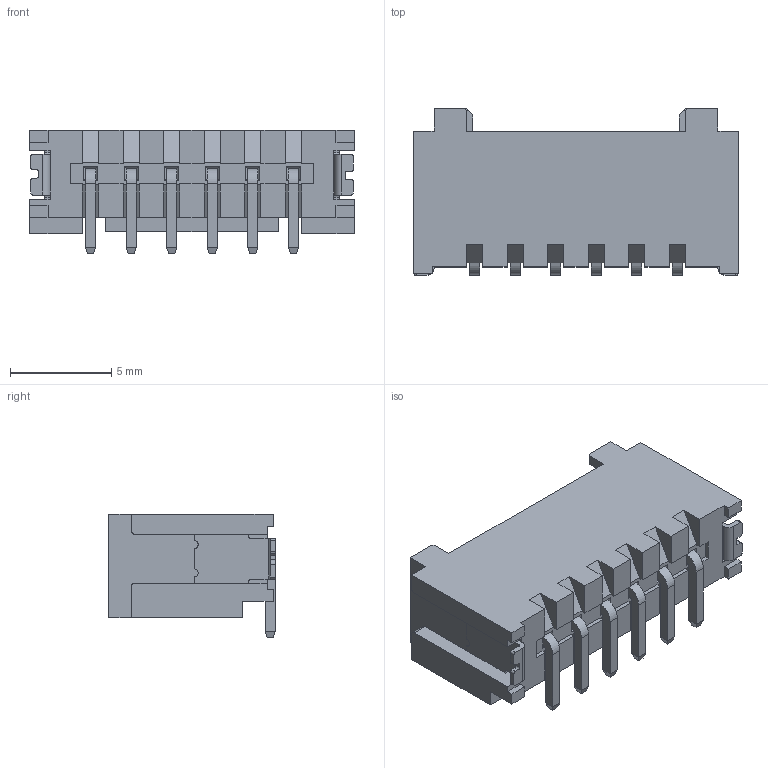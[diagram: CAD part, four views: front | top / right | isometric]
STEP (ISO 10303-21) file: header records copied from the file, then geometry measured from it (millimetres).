
FILE_DESCRIPTION(/* description */ (''),/* implementation_level */ '2;1');
FILE_NAME(/* name */ 'E:\工作文件\现出货3D文件\02宏一\HY\HC-HY-NALT-02 (立贴-HCTL)\HC-HY-6ALT-02（立贴-HCTL）.stp',/* time_stamp */ '2024-02-28T10:38:41+08:00',/* author */ ('admin'),/* organization */ (''),/* preprocessor_version */ 'ST-DEVELOPER v18.1',/* originating_system */ 'Autodesk Inventor 2021',/* authorisation */ '');
FILE_SCHEMA (('AUTOMOTIVE_DESIGN { 1 0 10303 214 3 1 1 }'));
Length unit declared in the file: millimetre
Products named in the file (1): HC-HY-3ALT-02（立贴-HCTL）
Bounding box: 16 x 8.2 x 6.1 mm (x, y, z)
Volume: 245.8 mm3; surface area: 760.3 mm2
Topology: 1 solids, 13 shells, 447 faces, 1129 edges, 720 vertices
Faces by surface type: plane 387, cylinder 60
Entity records: 13364 total; most frequent: CARTESIAN_POINT 2297, ORIENTED_EDGE 2258, DIRECTION 2161, EDGE_CURVE 1129, LINE 993, VECTOR 993, VERTEX_POINT 720, AXIS2_PLACEMENT_3D 584
